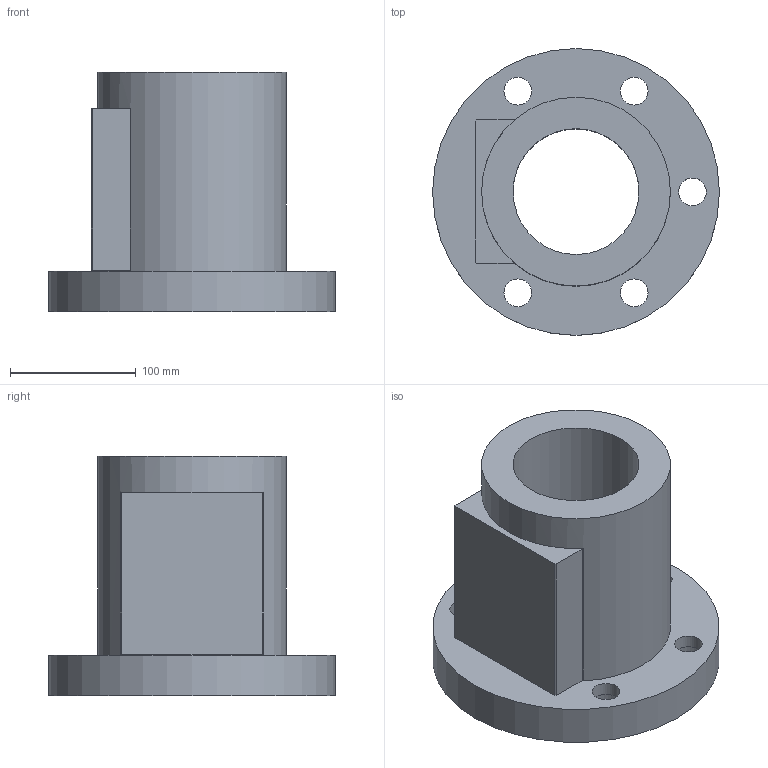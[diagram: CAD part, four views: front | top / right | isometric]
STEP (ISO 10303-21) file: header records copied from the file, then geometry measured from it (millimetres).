
FILE_DESCRIPTION(/* description */ (''),/* implementation_level */ '2;1');
FILE_NAME(/* name */ '100-20B2',/* time_stamp */ '2006-07-31T12:04:11+08:00',/* author */ (''),/* organization */ (''),/* preprocessor_version */ 'ST-DEVELOPER v9',/* originating_system */ 'UGS - NX 4.0',/* authorisation */ '');
FILE_SCHEMA (('CONFIG_CONTROL_DESIGN'));
Length unit declared in the file: millimetre
Products named in the file (1): 100-20B2
Bounding box: 228 x 228 x 190 mm (x, y, z)
Volume: 2689922.3 mm3; surface area: 242563.4 mm2
Topology: 1 solids, 1 shells, 30 faces, 67 edges, 46 vertices
Faces by surface type: plane 17, cylinder 13
Full cylindrical faces by diameter (mm): 22 x5, 32 x5, 100 x1, 150 x1, 228 x1
Entity records: 860 total; most frequent: DIRECTION 140, CARTESIAN_POINT 123, ORIENTED_EDGE 100, EDGE_LOOP 62, AXIS2_PLACEMENT_3D 59, EDGE_CURVE 50, FACE_BOUND 45, VERTEX_POINT 42
